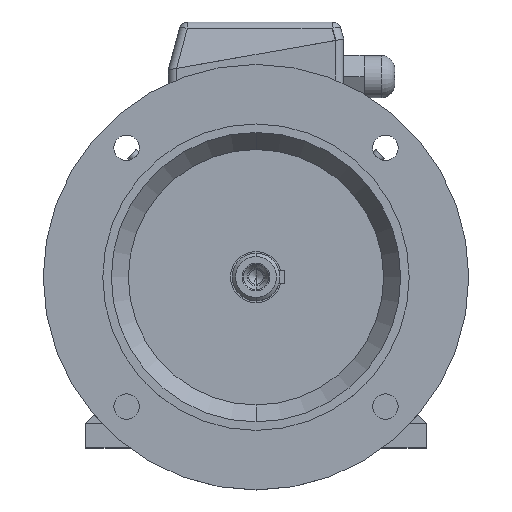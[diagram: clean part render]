
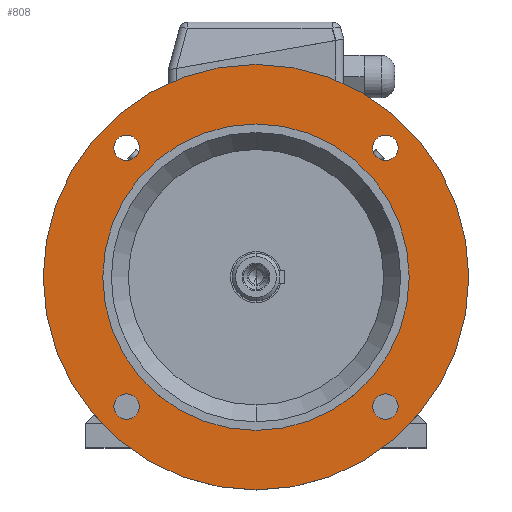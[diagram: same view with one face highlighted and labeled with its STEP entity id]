
A CAD part, top view. The second image highlights one B-rep face of the part: STEP entity #808.
In plain terms, the highlighted planar face has unit normal (0, 0, 1).
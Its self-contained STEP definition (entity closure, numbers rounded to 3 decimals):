
#28 = VERTEX_POINT ( 'NONE', #1850 ) ;
#87 = EDGE_CURVE ( 'NONE', #28, #13408, #1961, .T. ) ;
#95 = EDGE_CURVE ( 'NONE', #9531, #10961, #1999, .T. ) ;
#115 = VERTEX_POINT ( 'NONE', #2052 ) ;
#184 = ORIENTED_EDGE ( 'NONE', *, *, #95, .F. ) ;
#311 = EDGE_LOOP ( 'NONE', ( #184, #13394 ) ) ;
#376 = ORIENTED_EDGE ( 'NONE', *, *, #5073, .F. ) ;
#516 = EDGE_CURVE ( 'NONE', #4822, #6062, #2912, .T. ) ;
#611 = ORIENTED_EDGE ( 'NONE', *, *, #516, .F. ) ;
#702 = VERTEX_POINT ( 'NONE', #3251 ) ;
#744 = EDGE_LOOP ( 'NONE', ( #611, #376 ) ) ;
#764 = EDGE_CURVE ( 'NONE', #702, #8932, #3409, .T. ) ;
#808 = ADVANCED_FACE ( 'NONE', ( #3508, #3509, #3510, #3511, #3512, #3513 ), #3514, .T. ) ;
#887 = ORIENTED_EDGE ( 'NONE', *, *, #87, .F. ) ;
#953 = VERTEX_POINT ( 'NONE', #3933 ) ;
#1008 = EDGE_CURVE ( 'NONE', #1240, #953, #3989, .T. ) ;
#1016 = EDGE_LOOP ( 'NONE', ( #887, #7784 ) ) ;
#1076 = EDGE_CURVE ( 'NONE', #8932, #702, #4114, .T. ) ;
#1176 = ORIENTED_EDGE ( 'NONE', *, *, #1076, .T. ) ;
#1240 = VERTEX_POINT ( 'NONE', #4508 ) ;
#1321 = ORIENTED_EDGE ( 'NONE', *, *, #764, .T. ) ;
#1447 = EDGE_LOOP ( 'NONE', ( #1321, #1176 ) ) ;
#1512 = ORIENTED_EDGE ( 'NONE', *, *, #1008, .F. ) ;
#1650 = EDGE_CURVE ( 'NONE', #953, #1240, #5403, .T. ) ;
#1731 = ORIENTED_EDGE ( 'NONE', *, *, #1650, .F. ) ;
#1850 = CARTESIAN_POINT ( 'NONE',  ( 0., 125., 45. ) ) ;
#1961 = CIRCLE ( 'NONE', #1972, 125. ) ;
#1972 = AXIS2_PLACEMENT_3D ( 'NONE', #1973, #1974, #1975 ) ;
#1973 = CARTESIAN_POINT ( 'NONE',  ( 0., 0., 45. ) ) ;
#1974 = DIRECTION ( 'NONE',  ( 0., 0., -1. ) ) ;
#1975 = DIRECTION ( 'NONE',  ( 0., 1., 0. ) ) ;
#1999 = CIRCLE ( 'NONE', #2000, 7.5 ) ;
#2000 = AXIS2_PLACEMENT_3D ( 'NONE', #2001, #2002, #2003 ) ;
#2001 = CARTESIAN_POINT ( 'NONE',  ( -76.014, -76.014, 45. ) ) ;
#2002 = DIRECTION ( 'NONE',  ( 0., 0., 1. ) ) ;
#2003 = DIRECTION ( 'NONE',  ( 1., 0., 0. ) ) ;
#2052 = CARTESIAN_POINT ( 'NONE',  ( 68.514, -76.014, 45. ) ) ;
#2283 = EDGE_LOOP ( 'NONE', ( #1731, #1512 ) ) ;
#2561 = ORIENTED_EDGE ( 'NONE', *, *, #13320, .F. ) ;
#2912 = CIRCLE ( 'NONE', #2913, 7.5 ) ;
#2913 = AXIS2_PLACEMENT_3D ( 'NONE', #2914, #2915, #2916 ) ;
#2914 = CARTESIAN_POINT ( 'NONE',  ( -76.014, 76.014, 45. ) ) ;
#2915 = DIRECTION ( 'NONE',  ( 0., 0., 1. ) ) ;
#2916 = DIRECTION ( 'NONE',  ( 1., 0., 0. ) ) ;
#3251 = CARTESIAN_POINT ( 'NONE',  ( 0., 90., 45. ) ) ;
#3409 = CIRCLE ( 'NONE', #3410, 90. ) ;
#3410 = AXIS2_PLACEMENT_3D ( 'NONE', #3411, #3412, #3413 ) ;
#3411 = CARTESIAN_POINT ( 'NONE',  ( 0., 0., 45. ) ) ;
#3412 = DIRECTION ( 'NONE',  ( 0., 0., -1. ) ) ;
#3413 = DIRECTION ( 'NONE',  ( 0., 1., 0. ) ) ;
#3508 = FACE_BOUND ( 'NONE', #744, .T. ) ;
#3509 = FACE_BOUND ( 'NONE', #311, .T. ) ;
#3510 = FACE_BOUND ( 'NONE', #13329, .T. ) ;
#3511 = FACE_BOUND ( 'NONE', #2283, .T. ) ;
#3512 = FACE_BOUND ( 'NONE', #1447, .T. ) ;
#3513 = FACE_OUTER_BOUND ( 'NONE', #1016, .T. ) ;
#3514 = PLANE ( 'NONE',  #3515 ) ;
#3515 = AXIS2_PLACEMENT_3D ( 'NONE', #3516, #3517, #3518 ) ;
#3516 = CARTESIAN_POINT ( 'NONE',  ( 0., 125., 45. ) ) ;
#3517 = DIRECTION ( 'NONE',  ( 0., 0., 1. ) ) ;
#3518 = DIRECTION ( 'NONE',  ( 0., -1., 0. ) ) ;
#3933 = CARTESIAN_POINT ( 'NONE',  ( 83.514, 76.014, 45. ) ) ;
#3989 = CIRCLE ( 'NONE', #3990, 7.5 ) ;
#3990 = AXIS2_PLACEMENT_3D ( 'NONE', #3991, #3992, #3993 ) ;
#3991 = CARTESIAN_POINT ( 'NONE',  ( 76.014, 76.014, 45. ) ) ;
#3992 = DIRECTION ( 'NONE',  ( 0., 0., 1. ) ) ;
#3993 = DIRECTION ( 'NONE',  ( 1., 0., 0. ) ) ;
#4114 = CIRCLE ( 'NONE', #4115, 90. ) ;
#4115 = AXIS2_PLACEMENT_3D ( 'NONE', #4116, #4117, #4118 ) ;
#4116 = CARTESIAN_POINT ( 'NONE',  ( 0., 0., 45. ) ) ;
#4117 = DIRECTION ( 'NONE',  ( 0., 0., -1. ) ) ;
#4118 = DIRECTION ( 'NONE',  ( 0., 1., 0. ) ) ;
#4508 = CARTESIAN_POINT ( 'NONE',  ( 68.514, 76.014, 45. ) ) ;
#4822 = VERTEX_POINT ( 'NONE', #7767 ) ;
#5073 = EDGE_CURVE ( 'NONE', #6062, #4822, #7878, .T. ) ;
#5403 = CIRCLE ( 'NONE', #5404, 7.5 ) ;
#5404 = AXIS2_PLACEMENT_3D ( 'NONE', #5405, #5411, #5412 ) ;
#5405 = CARTESIAN_POINT ( 'NONE',  ( 76.014, 76.014, 45. ) ) ;
#5411 = DIRECTION ( 'NONE',  ( 0., 0., 1. ) ) ;
#5412 = DIRECTION ( 'NONE',  ( 1., 0., 0. ) ) ;
#6062 = VERTEX_POINT ( 'NONE', #8316 ) ;
#6960 = CARTESIAN_POINT ( 'NONE',  ( 83.514, -76.014, 45. ) ) ;
#7227 = CIRCLE ( 'NONE', #7228, 7.5 ) ;
#7228 = AXIS2_PLACEMENT_3D ( 'NONE', #7229, #7234, #7235 ) ;
#7229 = CARTESIAN_POINT ( 'NONE',  ( 76.014, -76.014, 45. ) ) ;
#7234 = DIRECTION ( 'NONE',  ( 0., 0., 1. ) ) ;
#7235 = DIRECTION ( 'NONE',  ( 1., 0., 0. ) ) ;
#7617 = CARTESIAN_POINT ( 'NONE',  ( 0., -125., 45. ) ) ;
#7767 = CARTESIAN_POINT ( 'NONE',  ( -68.514, 76.014, 45. ) ) ;
#7784 = ORIENTED_EDGE ( 'NONE', *, *, #9574, .F. ) ;
#7878 = CIRCLE ( 'NONE', #7879, 7.5 ) ;
#7879 = AXIS2_PLACEMENT_3D ( 'NONE', #7880, #7881, #7886 ) ;
#7880 = CARTESIAN_POINT ( 'NONE',  ( -76.014, 76.014, 45. ) ) ;
#7881 = DIRECTION ( 'NONE',  ( 0., 0., 1. ) ) ;
#7886 = DIRECTION ( 'NONE',  ( 1., 0., 0. ) ) ;
#8316 = CARTESIAN_POINT ( 'NONE',  ( -83.514, 76.014, 45. ) ) ;
#8932 = VERTEX_POINT ( 'NONE', #9780 ) ;
#9531 = VERTEX_POINT ( 'NONE', #10052 ) ;
#9574 = EDGE_CURVE ( 'NONE', #13408, #28, #10068, .T. ) ;
#9780 = CARTESIAN_POINT ( 'NONE',  ( 0., -90., 45. ) ) ;
#9785 = EDGE_CURVE ( 'NONE', #10961, #9531, #10161, .T. ) ;
#10052 = CARTESIAN_POINT ( 'NONE',  ( -68.514, -76.014, 45. ) ) ;
#10068 = CIRCLE ( 'NONE', #10069, 125. ) ;
#10069 = AXIS2_PLACEMENT_3D ( 'NONE', #10070, #10071, #10072 ) ;
#10070 = CARTESIAN_POINT ( 'NONE',  ( 0., 0., 45. ) ) ;
#10071 = DIRECTION ( 'NONE',  ( 0., 0., -1. ) ) ;
#10072 = DIRECTION ( 'NONE',  ( 0., 1., 0. ) ) ;
#10161 = CIRCLE ( 'NONE', #10162, 7.5 ) ;
#10162 = AXIS2_PLACEMENT_3D ( 'NONE', #10163, #10164, #10165 ) ;
#10163 = CARTESIAN_POINT ( 'NONE',  ( -76.014, -76.014, 45. ) ) ;
#10164 = DIRECTION ( 'NONE',  ( 0., 0., 1. ) ) ;
#10165 = DIRECTION ( 'NONE',  ( 1., 0., 0. ) ) ;
#10697 = CARTESIAN_POINT ( 'NONE',  ( -83.514, -76.014, 45. ) ) ;
#10961 = VERTEX_POINT ( 'NONE', #10697 ) ;
#12610 = CIRCLE ( 'NONE', #12611, 7.5 ) ;
#12611 = AXIS2_PLACEMENT_3D ( 'NONE', #12612, #12623, #12624 ) ;
#12612 = CARTESIAN_POINT ( 'NONE',  ( 76.014, -76.014, 45. ) ) ;
#12623 = DIRECTION ( 'NONE',  ( 0., 0., 1. ) ) ;
#12624 = DIRECTION ( 'NONE',  ( 1., 0., 0. ) ) ;
#13087 = EDGE_CURVE ( 'NONE', #13261, #115, #12610, .T. ) ;
#13206 = ORIENTED_EDGE ( 'NONE', *, *, #13087, .F. ) ;
#13261 = VERTEX_POINT ( 'NONE', #6960 ) ;
#13320 = EDGE_CURVE ( 'NONE', #115, #13261, #7227, .T. ) ;
#13329 = EDGE_LOOP ( 'NONE', ( #13206, #2561 ) ) ;
#13394 = ORIENTED_EDGE ( 'NONE', *, *, #9785, .F. ) ;
#13408 = VERTEX_POINT ( 'NONE', #7617 ) ;
